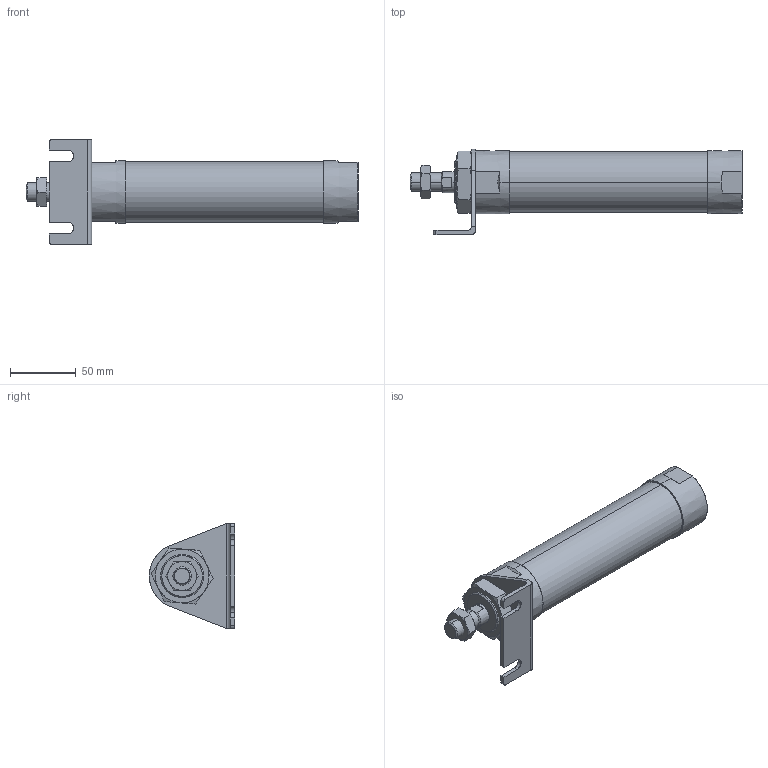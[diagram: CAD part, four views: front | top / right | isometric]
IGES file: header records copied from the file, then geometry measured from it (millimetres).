
Start section: SolidWorks IGES file using analytic representation for surfaces
Global section: file name: C:\Users\Toshiba\Desktop\JGND2-40-100-L.IGS; native system: SolidWorks 2014; preprocessor: SolidWorks 2014; author: Toshiba; date: 160804.111016; units: millimetre
Bounding box: 253 x 65 x 80 mm (x, y, z)
Surface area: 54381.3 mm2 (no closed solid volume)
Topology: 0 solids, 0 shells, 116 faces, 2112 edges, 2108 vertices
Faces by surface type: bspline 71, revolution 45
